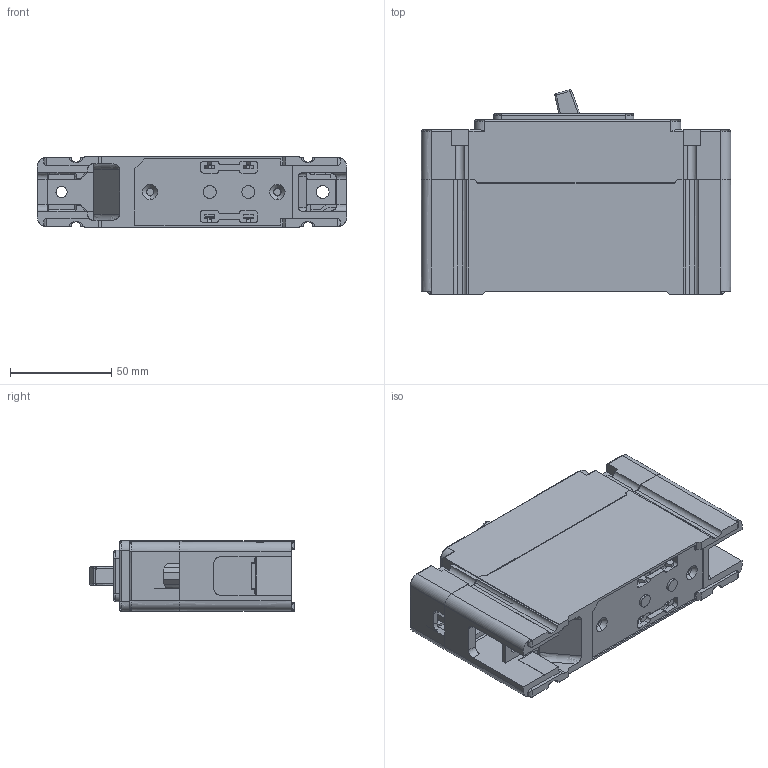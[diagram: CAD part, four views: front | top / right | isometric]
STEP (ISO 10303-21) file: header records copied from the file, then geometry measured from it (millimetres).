
FILE_DESCRIPTION((''),'2;1');
FILE_NAME('FD_1P_SHRINKWRAP','2003-05-08T11:43:19',('hopkin_m'),(''),'PRO/ENGINEER BY PARAMETRIC TECHNOLOGY CORPORATION, 2001150','PRO/ENGINEER BY PARAMETRIC TECHNOLOGY CORPORATION, 2001150','');
FILE_SCHEMA(('CONFIG_CONTROL_DESIGN'));
Products named in the file (1): FD_1P_SHRINKWRAP
Bounding box: 152.4 x 100.72 x 34.95 mm (x, y, z)
Surface area: 90815 mm2 (no closed solid volume)
Topology: 0 solids, 0 shells, 770 faces, 4465 edges, 4434 vertices
Faces by surface type: bspline 740, torus 26, sphere 4
Entity records: 69273 total; most frequent: CARTESIAN_POINT 28151, DIRECTION 6596, TRIMMED_CURVE 6050, VECTOR 5564, LINE 5564, DEFINITIONAL_REPRESENTATION 4404, PCURVE 4404, COMPOSITE_CURVE_SEGMENT 4404
